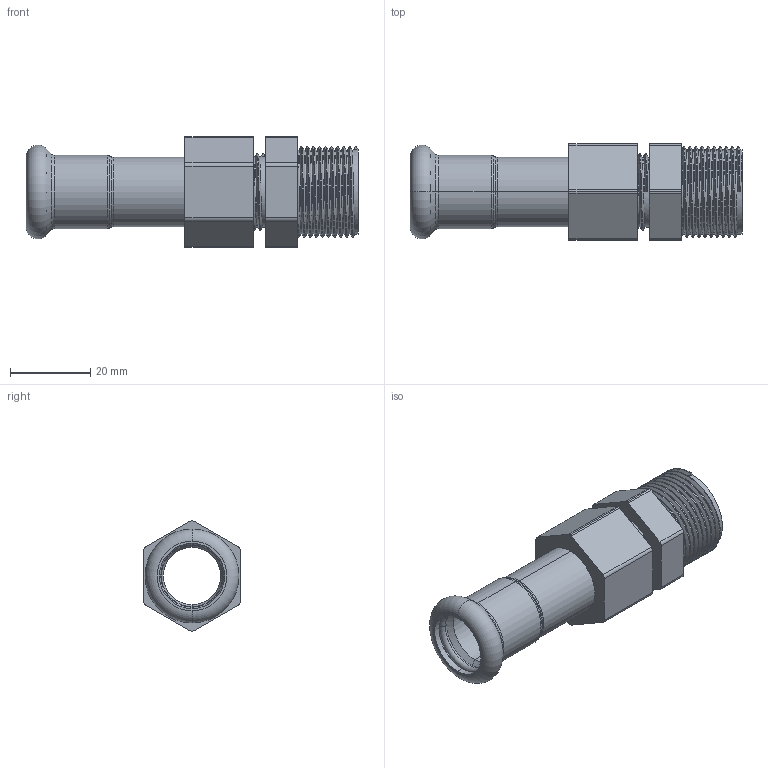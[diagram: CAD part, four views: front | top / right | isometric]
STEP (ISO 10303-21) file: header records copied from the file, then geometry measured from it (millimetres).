
FILE_DESCRIPTION (( 'STEP AP214' ), '1' );
FILE_NAME ('M15150K.STEP', '2025-08-17T06:53:13', ( '' ), ( '' ), 'SwSTEP 2.0', 'SolidWorks 2020', '' );
FILE_SCHEMA (( 'AUTOMOTIVE_DESIGN' ));
Length unit declared in the file: millimetre
Products named in the file (1): M15150K
Bounding box: 82.5 x 24 x 27.4 mm (x, y, z)
Volume: 13770 mm3; surface area: 14166.9 mm2
Topology: 3 solids, 3 shells, 141 faces, 347 edges, 217 vertices
Faces by surface type: cylinder 80, plane 28, torus 14, cone 10, bspline 9
Entity records: 9226 total; most frequent: CARTESIAN_POINT 4518, ORIENTED_EDGE 694, DIRECTION 622, EDGE_CURVE 347, AXIS2_PLACEMENT_3D 239, VERTEX_POINT 217, EDGE_LOOP 152, UNCERTAINTY_MEASURE_WITH_UNIT 146
